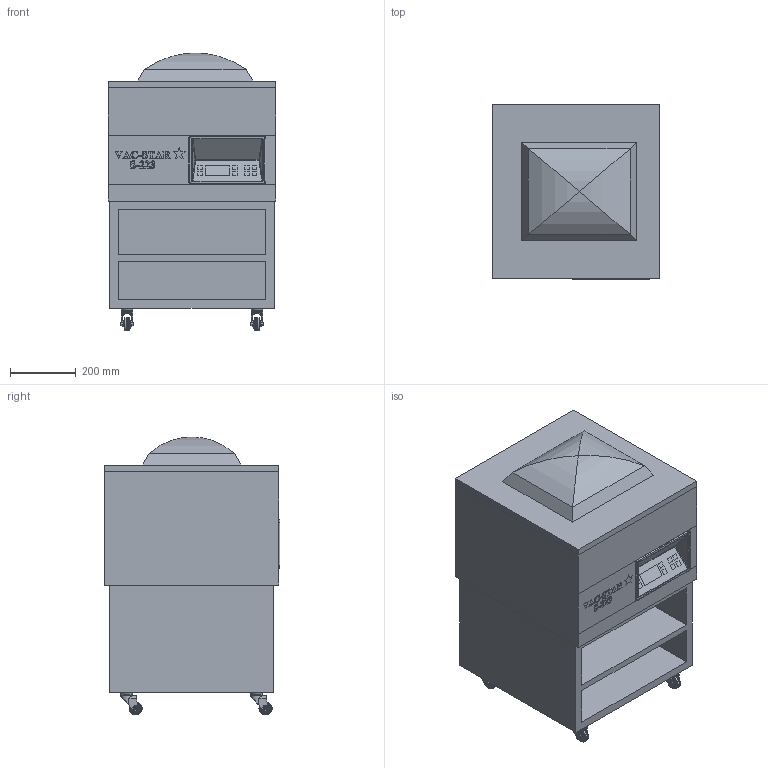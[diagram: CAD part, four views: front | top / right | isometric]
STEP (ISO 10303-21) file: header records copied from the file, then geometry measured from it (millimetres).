
FILE_DESCRIPTION(/* description */ ('Unknown'),/* implementation_level */ '2;1');
FILE_NAME(/* name */ 'C3D-S223-mit-Unterbau-MUC_AA',/* time_stamp */ '2021-10-22T10:28:34+02:00',/* author */ ('Unknown'),/* organization */ ('Unknown'),/* preprocessor_version */ 'ST-DEVELOPER v16.7',/* originating_system */ 'Solid Edge',/* authorisation */ 'Unknown');
FILE_SCHEMA (('AUTOMOTIVE_DESIGN {1 0 10303 214 3 1 1}'));
Length unit declared in the file: millimetre
Products named in the file (8): R-VAC-STAR-S223-UC; R-VAC-STAR-U-M-UC; 310X PT 50 EL; 310X PT 50 EL_body; 310X PT 50 EL_shaft; 50 EL-6-X; 310X PT 50 EL_plate; R-VAC-STAR-S223
Assembly tree (10 placements, depth 3):
  R-VAC-STAR-S223-UC
    R-VAC-STAR-U-M-UC
    310X PT 50 EL  x4
      310X PT 50 EL_body
      310X PT 50 EL_shaft
      50 EL-6-X
      310X PT 50 EL_plate
    R-VAC-STAR-S223
Bounding box: 510 x 534.51 x 845 mm (x, y, z)
Volume: 104735070.7 mm3; surface area: 4468832.1 mm2
Topology: 19 solids, 19 shells, 1582 faces, 3840 edges, 2480 vertices
Faces by surface type: plane 913, cylinder 359, cone 128, torus 116, bspline 40, sphere 26
Full cylindrical faces by diameter (mm): 0.025 x4, 0.1 x4, 1.2 x4, 1.25 x4, 6 x20, 7 x8, 7.8 x8, 9 x8, 10.8 x8, 13 x4, 21 x8, 30 x4, 34.5 x8, 36 x12, 37.5 x8, 39.5 x8, 40 x12
Entity records: 23998 total; most frequent: CARTESIAN_POINT 7480, ORIENTED_EDGE 2880, DIRECTION 2680, EDGE_CURVE 1440, VERTEX_POINT 974, LINE 912, VECTOR 912, AXIS2_PLACEMENT_3D 884
